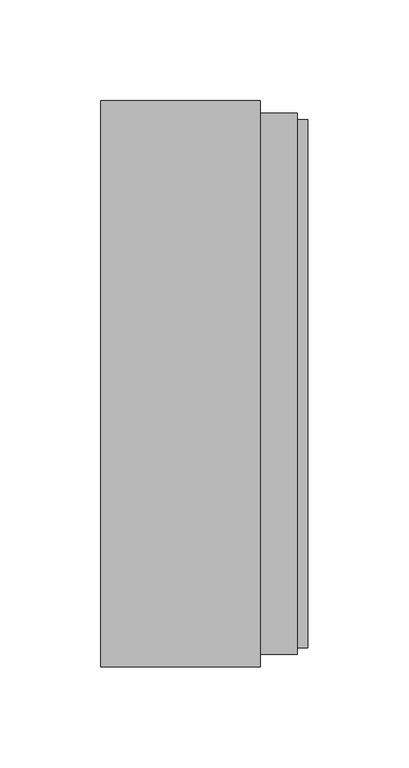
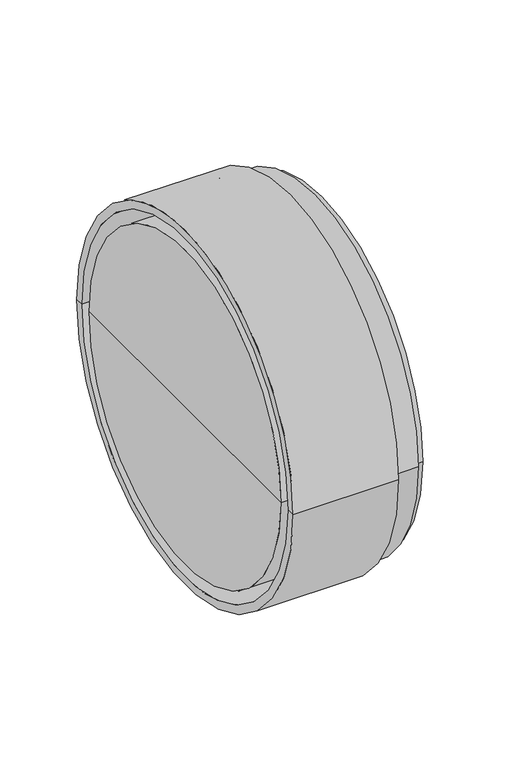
"""IFC4 building model written with IfcOpenShell, lengths in millimetres: pipe fitting geometry, pf_KGUSM : pf_KGUSM."""

from ifc_helpers import new_model, si_unit, frame, origin, place, context, project, spatial, polyline, circle_curve, source, transform, mapped, element, save
from ifc_brep_helpers import plane_surface, cylinder_surface, revolved_surface, advanced_brep


def pipe_fitting_1d1756fd(model_context):
    return source(origin(), model_context, "Body", "AdvancedBrep", [
        advanced_brep(
        [(-1.75, 0.0, 0.0), (-1.75, 125.0, 0.0), (-1.75, -125.0, 0.0), (101.25, -131.2, 0.0), (101.25, 131.2, 0.0), (101.25, 125.0, 0.0), (101.25, -125.0, 0.0), (95.85, -131.2, 0.0), (95.85, 131.2, 0.0), (95.85, -134.6, 0.0), (95.85, 134.6, 0.0), (77.55, -134.6, 0.0), (77.55, 134.6, 0.0), (65.05, -125.0, 0.0), (65.05, 125.0, 0.0), (65.05, 0.0, 0.0), (77.55, -140.8, 0.0), (77.55, 140.8, 0.0), (-1.75, -140.8, 0.0), (-1.75, 140.8, 0.0), (-1.75, -134.6, 0.0), (-1.75, 134.6, 0.0), (68.0131579, -134.6, 0.0), (68.0131579, 134.6, 0.0), (68.0131579, -131.2, 0.0), (68.0131579, 131.2, 0.0), (65.05, -131.2, 0.0), (65.05, 131.2, 0.0), (56.55, -125.0, 0.0), (56.55, 125.0, 0.0)],
        [
            (0, 1),
            (1, 2, circle_curve(frame((-1.75, 0.0, 0.0), z_axis=(-1.0, 0.0, 0.0), x_axis=(0.0, 1.0, 0.0)), 125.0)),
            (2, 0),
            (2, 1, circle_curve(frame((-1.75, 0.0, 0.0), z_axis=(-1.0, 0.0, 0.0), x_axis=(0.0, 1.0, 0.0)), 125.0)),
            (3, 4, circle_curve(frame((101.25, 0.0, 0.0), z_axis=(1.0, 0.0, 0.0), x_axis=(0.0, 1.0, 0.0)), 131.2)),
            (4, 5),
            (5, 6, circle_curve(frame((101.25, 0.0, 0.0), z_axis=(-1.0, 0.0, 0.0), x_axis=(0.0, 1.0, 0.0)), 125.0)),
            (6, 3),
            (4, 3, circle_curve(frame((101.25, 0.0, 0.0), z_axis=(1.0, 0.0, 0.0), x_axis=(0.0, 1.0, 0.0)), 131.2)),
            (6, 5, circle_curve(frame((101.25, 0.0, 0.0), z_axis=(-1.0, 0.0, 0.0), x_axis=(0.0, 1.0, 0.0)), 125.0)),
            (7, 8, circle_curve(frame((95.85, 0.0, 0.0), z_axis=(1.0, 0.0, 0.0), x_axis=(0.0, 1.0, 0.0)), 131.2)),
            (8, 4),
            (3, 7),
            (8, 7, circle_curve(frame((95.85, 0.0, 0.0), z_axis=(1.0, 0.0, 0.0), x_axis=(0.0, 1.0, 0.0)), 131.2)),
            (9, 10, circle_curve(frame((95.85, 0.0, 0.0), z_axis=(1.0, 0.0, 0.0), x_axis=(0.0, 1.0, 0.0)), 134.6)),
            (10, 8),
            (7, 9),
            (10, 9, circle_curve(frame((95.85, 0.0, 0.0), z_axis=(1.0, 0.0, 0.0), x_axis=(0.0, 1.0, 0.0)), 134.6)),
            (11, 12, circle_curve(frame((77.55, 0.0, 0.0), z_axis=(1.0, 0.0, 0.0), x_axis=(0.0, 1.0, 0.0)), 134.6)),
            (12, 10),
            (9, 11),
            (12, 11, circle_curve(frame((77.55, 0.0, 0.0), z_axis=(1.0, 0.0, 0.0), x_axis=(0.0, 1.0, 0.0)), 134.6)),
            (13, 14, circle_curve(frame((65.05, 0.0, 0.0), z_axis=(1.0, 0.0, 0.0), x_axis=(0.0, 1.0, 0.0)), 125.0)),
            (14, 15),
            (15, 13),
            (14, 13, circle_curve(frame((65.05, 0.0, 0.0), z_axis=(1.0, 0.0, 0.0), x_axis=(0.0, 1.0, 0.0)), 125.0)),
            (5, 14),
            (13, 6),
            (16, 17, circle_curve(frame((77.55, 0.0, 0.0), z_axis=(1.0, 0.0, 0.0), x_axis=(0.0, 1.0, 0.0)), 140.8)),
            (17, 12),
            (11, 16),
            (17, 16, circle_curve(frame((77.55, 0.0, 0.0), z_axis=(1.0, 0.0, 0.0), x_axis=(0.0, 1.0, 0.0)), 140.8)),
            (18, 19, circle_curve(frame((-1.75, 0.0, 0.0), z_axis=(1.0, 0.0, 0.0), x_axis=(0.0, 1.0, 0.0)), 140.8)),
            (19, 17),
            (16, 18),
            (19, 18, circle_curve(frame((-1.75, 0.0, 0.0), z_axis=(1.0, 0.0, 0.0), x_axis=(0.0, 1.0, 0.0)), 140.8)),
            (20, 21, circle_curve(frame((-1.75, 0.0, 0.0), z_axis=(1.0, 0.0, 0.0), x_axis=(0.0, 1.0, 0.0)), 134.6)),
            (21, 19),
            (18, 20),
            (21, 20, circle_curve(frame((-1.75, 0.0, 0.0), z_axis=(1.0, 0.0, 0.0), x_axis=(0.0, 1.0, 0.0)), 134.6)),
            (22, 23, circle_curve(frame((68.0131579, 0.0, 0.0), z_axis=(1.0, 0.0, 0.0), x_axis=(0.0, 1.0, 0.0)), 134.6)),
            (23, 21),
            (20, 22),
            (23, 22, circle_curve(frame((68.0131579, 0.0, 0.0), z_axis=(1.0, 0.0, 0.0), x_axis=(0.0, 1.0, 0.0)), 134.6)),
            (24, 25, circle_curve(frame((68.0131579, 0.0, 0.0), z_axis=(1.0, 0.0, 0.0), x_axis=(0.0, 1.0, 0.0)), 131.2)),
            (25, 23),
            (22, 24),
            (25, 24, circle_curve(frame((68.0131579, 0.0, 0.0), z_axis=(1.0, 0.0, 0.0), x_axis=(0.0, 1.0, 0.0)), 131.2)),
            (26, 27, circle_curve(frame((65.05, 0.0, 0.0), z_axis=(1.0, 0.0, 0.0), x_axis=(0.0, 1.0, 0.0)), 131.2)),
            (27, 25),
            (24, 26),
            (27, 26, circle_curve(frame((65.05, 0.0, 0.0), z_axis=(1.0, 0.0, 0.0), x_axis=(0.0, 1.0, 0.0)), 131.2)),
            (28, 29, circle_curve(frame((56.55, 0.0, 0.0), z_axis=(1.0, 0.0, 0.0), x_axis=(0.0, 1.0, 0.0)), 125.0)),
            (29, 27),
            (26, 28),
            (29, 28, circle_curve(frame((56.55, 0.0, 0.0), z_axis=(1.0, 0.0, 0.0), x_axis=(0.0, 1.0, 0.0)), 125.0)),
            (1, 29),
            (28, 2),
        ],
        [
            plane_surface(frame((-1.75, 0.0, 0.0), z_axis=(-1.0, 0.0, 0.0), x_axis=(0.0, 1.0, 0.0))),
            plane_surface(frame((101.25, 0.0, 0.0), z_axis=(1.0, 0.0, 0.0), x_axis=(0.0, 1.0, 0.0))),
            cylinder_surface(frame((-1.75, 0.0, 0.0), z_axis=(-1.0, 0.0, 0.0), x_axis=(0.0, 1.0, 0.0)), 131.2),
            plane_surface(frame((95.85, 0.0, 0.0), z_axis=(1.0, 0.0, 0.0), x_axis=(0.0, 1.0, 0.0))),
            cylinder_surface(frame((-1.75, 0.0, 0.0), z_axis=(-1.0, 0.0, 0.0), x_axis=(0.0, 1.0, 0.0)), 134.6),
            plane_surface(frame((65.05, 0.0, 0.0), z_axis=(1.0, 0.0, 0.0), x_axis=(0.0, 1.0, 0.0))),
            revolved_surface(polyline([(65.05, 125.0, 0.0), (101.25, 125.0, 0.0)]), (-1.75, 0.0, 0.0), (-1.0, 0.0, 0.0)),
            plane_surface(frame((77.55, 0.0, 0.0), z_axis=(1.0, 0.0, 0.0), x_axis=(0.0, 1.0, 0.0))),
            cylinder_surface(frame((-1.75, 0.0, 0.0), z_axis=(-1.0, 0.0, 0.0), x_axis=(0.0, 1.0, 0.0)), 140.8),
            revolved_surface(polyline([(-1.75, 134.6, 0.0), (68.0131579, 134.6, 0.0)]), (-1.75, 0.0, 0.0), (-1.0, 0.0, 0.0)),
            plane_surface(frame((68.0131579, 0.0, 0.0), z_axis=(-1.0, 0.0, 0.0), x_axis=(0.0, 1.0, 0.0))),
            revolved_surface(polyline([(65.05, 131.2, 0.0), (56.55, 125.0, 0.0)]), (-1.75, 0.0, 0.0), (-1.0, 0.0, 0.0)),
            cylinder_surface(frame((-1.75, 0.0, 0.0), z_axis=(-1.0, 0.0, 0.0), x_axis=(0.0, 1.0, 0.0)), 125.0),
        ],
        [
            (0, [[1, 2, 3]]),
            (0, [[-3, 4, -1]]),
            (1, [[5, 6, 7, 8]]),
            (1, [[9, -8, 10, -6]]),
            (2, [[11, 12, -5, 13]]),
            (2, [[14, -13, -9, -12]]),
            (3, [[15, 16, -11, 17]]),
            (3, [[18, -17, -14, -16]]),
            (4, [[19, 20, -15, 21]]),
            (4, [[22, -21, -18, -20]]),
            (5, [[23, 24, 25]]),
            (5, [[26, -25, -24]]),
            (6, [[-7, 27, -23, 28]]),
            (6, [[-10, -28, -26, -27]]),
            (7, [[29, 30, -19, 31]]),
            (7, [[32, -31, -22, -30]]),
            (8, [[33, 34, -29, 35]]),
            (8, [[36, -35, -32, -34]]),
            (0, [[37, 38, -33, 39]]),
            (0, [[40, -39, -36, -38]]),
            (9, [[41, 42, -37, 43]]),
            (9, [[44, -43, -40, -42]]),
            (10, [[45, 46, -41, 47]]),
            (10, [[48, -47, -44, -46]]),
            (2, [[49, 50, -45, 51]]),
            (2, [[52, -51, -48, -50]]),
            (11, [[53, 54, -49, 55]]),
            (11, [[56, -55, -52, -54]]),
            (12, [[-2, 57, -53, 58]]),
            (12, [[-4, -58, -56, -57]]),
        ],
    ),
    ])


if __name__ == "__main__":
    model = new_model("IFC4")
    model_context = context("Model", 3, world=origin())
    ifc_project = project(units=[si_unit("LENGTHUNIT", "METRE", prefix="MILLI")], contexts=[model_context])
    site = spatial("IfcSite", under=ifc_project)
    building = spatial("IfcBuilding", under=site)
    placement = place(None, origin())
    pipe_fitting_shape = pipe_fitting_1d1756fd(model_context)
    element("IfcPipeFitting", 1, ObjectType="pf_KGUSM : pf_KGUSM", at=placement, inside=building, context=model_context, shape_type="MappedRepresentation", body=[
        mapped(pipe_fitting_shape, transform((0.0, 0.0, 0.0), x_axis=(1.0, 0.0, 0.0), y_axis=(0.0, 1.0, 0.0), z_axis=(0.0, 0.0, 1.0))),
    ])
    save(model, "model.ifc")
